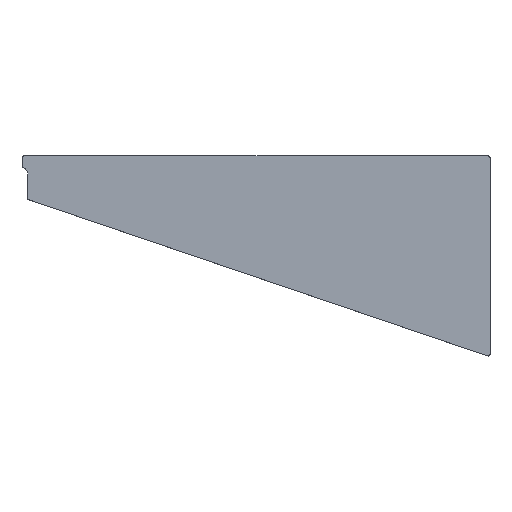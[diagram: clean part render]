
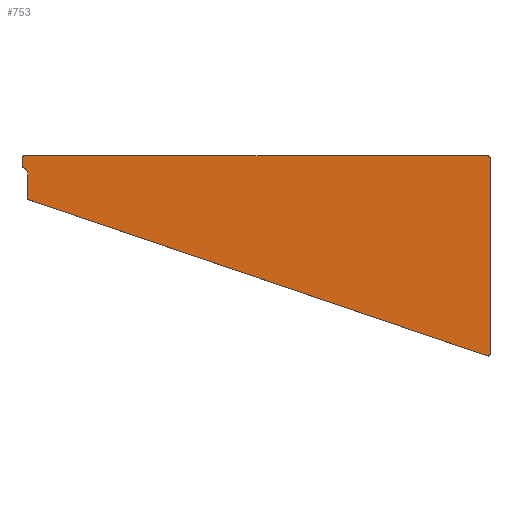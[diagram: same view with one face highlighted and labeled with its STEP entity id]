
A CAD part, top view. The second image highlights one B-rep face of the part: STEP entity #753.
In plain terms, the highlighted planar face has unit normal (0, 0, 1).
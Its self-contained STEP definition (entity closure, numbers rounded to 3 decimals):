
#365=CIRCLE('',#719,12.5);
#367=CIRCLE('',#722,3.);
#368=CIRCLE('',#723,3.);
#369=CIRCLE('',#724,3.);
#370=CIRCLE('',#725,3.);
#371=CIRCLE('',#726,3.);
#391=ORIENTED_EDGE('',*,*,#516,.F.);
#392=ORIENTED_EDGE('',*,*,#520,.F.);
#393=ORIENTED_EDGE('',*,*,#521,.F.);
#394=ORIENTED_EDGE('',*,*,#522,.T.);
#395=ORIENTED_EDGE('',*,*,#523,.T.);
#396=ORIENTED_EDGE('',*,*,#524,.T.);
#397=ORIENTED_EDGE('',*,*,#525,.T.);
#398=ORIENTED_EDGE('',*,*,#526,.F.);
#399=ORIENTED_EDGE('',*,*,#527,.T.);
#400=ORIENTED_EDGE('',*,*,#528,.F.);
#401=ORIENTED_EDGE('',*,*,#517,.F.);
#452=VECTOR('',#577,1.);
#454=VECTOR('',#589,1.);
#455=VECTOR('',#592,1.);
#456=VECTOR('',#595,1.);
#457=VECTOR('',#598,1.);
#473=LINE('',#655,#452);
#475=LINE('',#666,#454);
#476=LINE('',#670,#455);
#477=LINE('',#674,#456);
#478=LINE('',#678,#457);
#492=VERTEX_POINT('',#649);
#494=VERTEX_POINT('',#653);
#495=VERTEX_POINT('',#657);
#497=VERTEX_POINT('',#663);
#498=VERTEX_POINT('',#665);
#499=VERTEX_POINT('',#667);
#500=VERTEX_POINT('',#669);
#501=VERTEX_POINT('',#671);
#502=VERTEX_POINT('',#673);
#503=VERTEX_POINT('',#675);
#504=VERTEX_POINT('',#677);
#516=EDGE_CURVE('',#494,#492,#473,.T.);
#517=EDGE_CURVE('',#492,#495,#365,.T.);
#520=EDGE_CURVE('',#497,#494,#367,.T.);
#521=EDGE_CURVE('',#498,#497,#475,.T.);
#522=EDGE_CURVE('',#498,#499,#368,.T.);
#523=EDGE_CURVE('',#499,#500,#476,.T.);
#524=EDGE_CURVE('',#500,#501,#369,.T.);
#525=EDGE_CURVE('',#501,#502,#477,.T.);
#526=EDGE_CURVE('',#503,#502,#370,.T.);
#527=EDGE_CURVE('',#503,#504,#478,.T.);
#528=EDGE_CURVE('',#495,#504,#371,.T.);
#548=EDGE_LOOP('',(#391,#392,#393,#394,#395,#396,#397,#398,#399,#400,#401));
#561=FACE_BOUND('',#548,.T.);
#577=DIRECTION('',(0.,43.07,0.));
#580=DIRECTION('',(0.,0.,1.));
#581=DIRECTION('',(0.,12.5,0.));
#585=DIRECTION('',(0.,0.,1.));
#586=DIRECTION('',(0.,-1.,0.));
#587=DIRECTION('',(0.,0.,-1.));
#588=DIRECTION('',(0.,-3.,0.));
#589=DIRECTION('',(-824.,280.512,0.));
#590=DIRECTION('',(0.,0.,1.));
#591=DIRECTION('',(0.,3.,0.));
#592=DIRECTION('',(0.,353.082,0.));
#593=DIRECTION('',(0.,0.,1.));
#594=DIRECTION('',(0.,3.,0.));
#595=DIRECTION('',(-834.,0.,0.));
#596=DIRECTION('',(0.,0.,-1.));
#597=DIRECTION('',(0.,-3.,0.));
#598=DIRECTION('',(0.,-15.009,0.));
#599=DIRECTION('',(0.,0.,-1.));
#600=DIRECTION('',(0.,-3.,0.));
#649=CARTESIAN_POINT('',(6949.504,13858.86,40.));
#653=CARTESIAN_POINT('',(6949.504,13815.79,40.));
#655=CARTESIAN_POINT('',(6949.504,13815.79,40.));
#657=CARTESIAN_POINT('',(6941.439,13870.546,40.));
#658=CARTESIAN_POINT('',(6937.004,13858.86,40.));
#662=CARTESIAN_POINT('',(0.,0.,40.));
#663=CARTESIAN_POINT('',(6951.537,13812.95,40.));
#664=CARTESIAN_POINT('',(6952.504,13815.79,40.));
#665=CARTESIAN_POINT('',(7775.537,13532.438,40.));
#666=CARTESIAN_POINT('',(7775.537,13532.438,40.));
#667=CARTESIAN_POINT('',(7779.504,13535.278,40.));
#668=CARTESIAN_POINT('',(7776.504,13535.278,40.));
#669=CARTESIAN_POINT('',(7779.504,13888.36,40.));
#670=CARTESIAN_POINT('',(7779.504,13535.278,40.));
#671=CARTESIAN_POINT('',(7776.504,13891.36,40.));
#672=CARTESIAN_POINT('',(7776.504,13888.36,40.));
#673=CARTESIAN_POINT('',(6942.504,13891.36,40.));
#674=CARTESIAN_POINT('',(7776.504,13891.36,40.));
#675=CARTESIAN_POINT('',(6939.504,13888.36,40.));
#676=CARTESIAN_POINT('',(6942.504,13888.36,40.));
#677=CARTESIAN_POINT('',(6939.504,13873.351,40.));
#678=CARTESIAN_POINT('',(6939.504,13888.36,40.));
#679=CARTESIAN_POINT('',(6942.504,13873.351,40.));
#719=AXIS2_PLACEMENT_3D('',#658,#580,#581);
#721=AXIS2_PLACEMENT_3D('',#662,#585,#586);
#722=AXIS2_PLACEMENT_3D('',#664,#587,#588);
#723=AXIS2_PLACEMENT_3D('',#668,#590,#591);
#724=AXIS2_PLACEMENT_3D('',#672,#593,#594);
#725=AXIS2_PLACEMENT_3D('',#676,#596,#597);
#726=AXIS2_PLACEMENT_3D('',#679,#599,#600);
#745=PLANE('',#721);
#753=ADVANCED_FACE('',(#561),#745,.T.);
